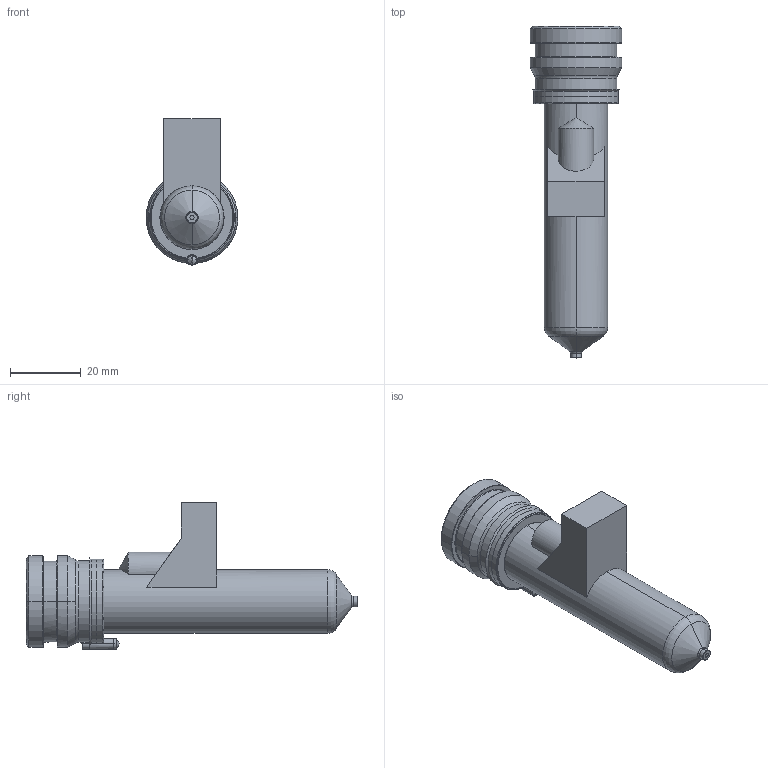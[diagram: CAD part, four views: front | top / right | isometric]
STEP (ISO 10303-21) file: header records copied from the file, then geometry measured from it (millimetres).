
FILE_DESCRIPTION((''),'2;1');
FILE_NAME('MPN-08-24-VP3-076-M','2026-02-05T13:32:26',('UPTIO'),('Thermoplay S.p.A.'),'CREO PARAMETRIC BY PTC INC, 2023494','CREO PARAMETRIC BY PTC INC, 2023494','');
FILE_SCHEMA(('CONFIG_CONTROL_DESIGN','SHAPE_APPEARANCE_LAYERS_GROUPS'));
Length unit declared in the file: millimetre
Products named in the file (1): MPN-08-24-VP3-076-M
Bounding box: 26 x 94.1 x 41.5 mm (x, y, z)
Volume: 19424.7 mm3; surface area: 25123.4 mm2
Topology: 2 solids, 3 shells, 571 faces, 1494 edges, 922 vertices
Faces by surface type: cylinder 178, plane 143, bspline 103, torus 68, cone 66, sphere 7, extrusion 6
Entity records: 30429 total; most frequent: CARTESIAN_POINT 13919, ORIENTED_EDGE 2970, DIRECTION 2631, EDGE_CURVE 1485, AXIS2_PLACEMENT_3D 1029, VERTEX_POINT 922, EDGE_LOOP 601, VECTOR 573
